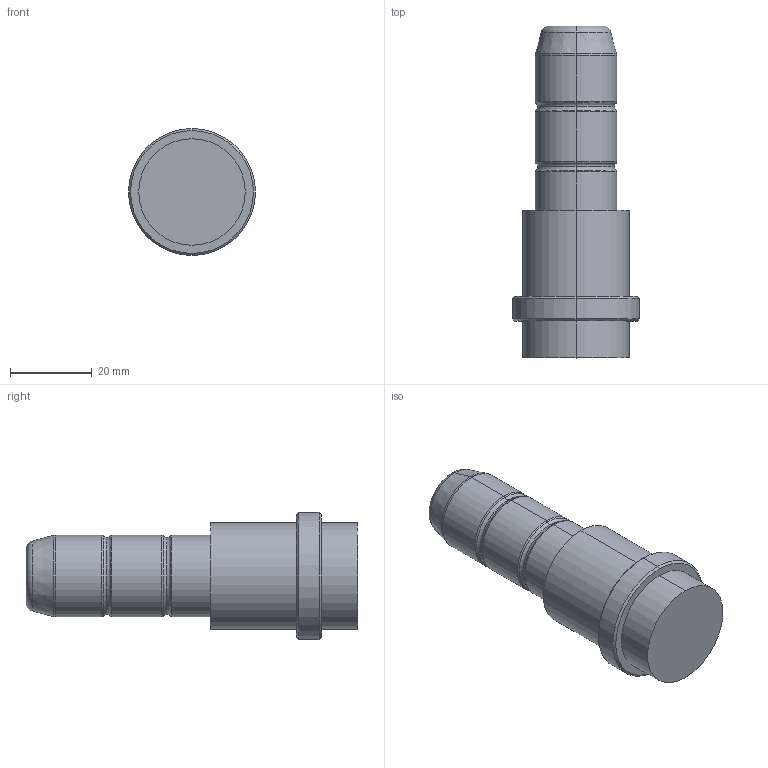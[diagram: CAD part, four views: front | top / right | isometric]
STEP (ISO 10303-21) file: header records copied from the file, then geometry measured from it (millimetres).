
FILE_DESCRIPTION (( 'STEP AP214' ), '1' );
FILE_NAME ('BR00 20x27x45.STEP', '2019-05-15T09:36:16', ( 'August' ), ( '' ), 'SwSTEP 2.0', 'SolidWorks 2018', '' );
FILE_SCHEMA (( 'AUTOMOTIVE_DESIGN' ));
Length unit declared in the file: millimetre
Products named in the file (1): BR00 20x27x45
Bounding box: 31 x 81 x 31 mm (x, y, z)
Volume: 34049.5 mm3; surface area: 7191.1 mm2
Topology: 1 solids, 1 shells, 43 faces, 84 edges, 46 vertices
Faces by surface type: torus 20, cylinder 12, cone 6, plane 5
Entity records: 1138 total; most frequent: DIRECTION 238, CARTESIAN_POINT 174, ORIENTED_EDGE 168, AXIS2_PLACEMENT_3D 110, EDGE_CURVE 84, CIRCLE 66, VERTEX_POINT 46, EDGE_LOOP 46
